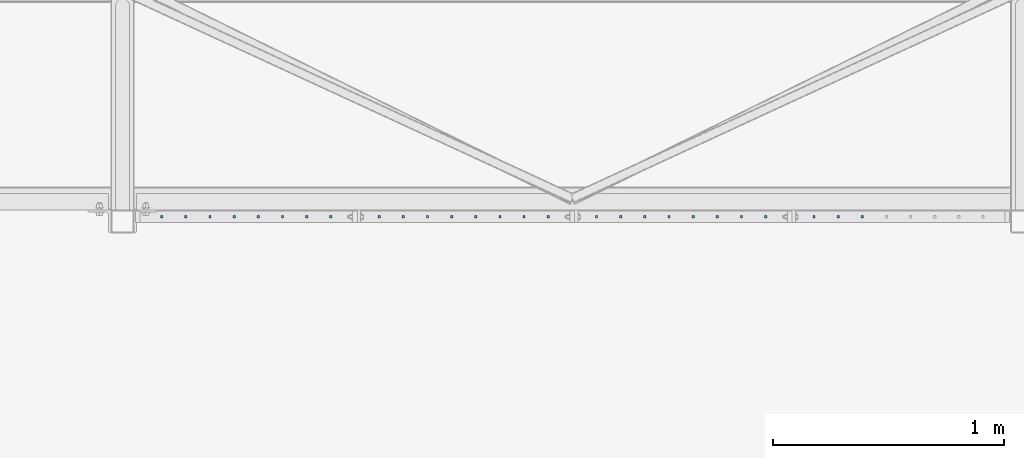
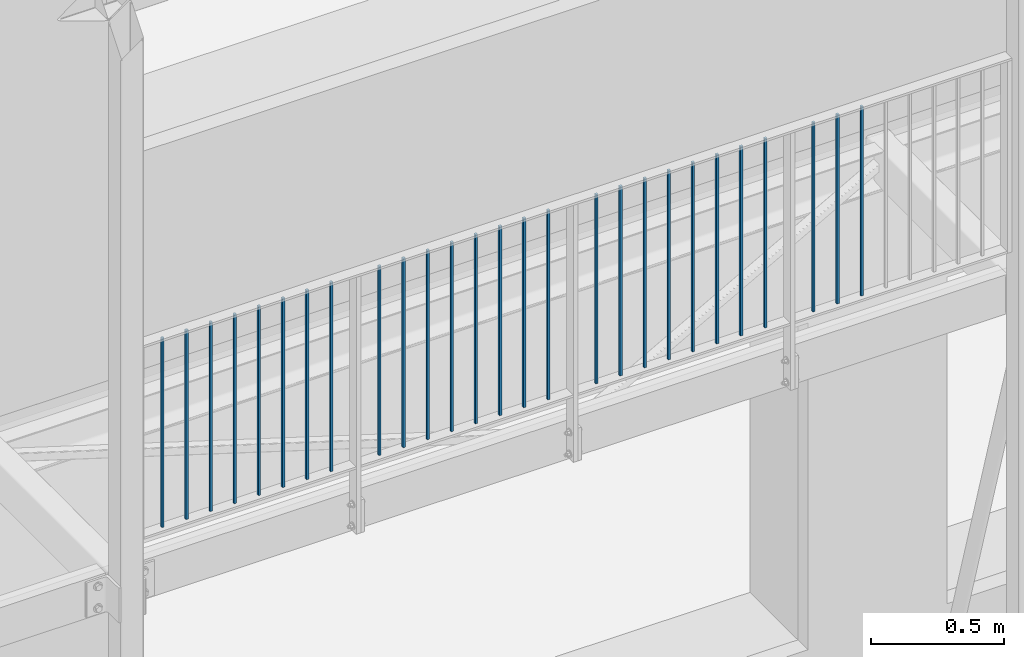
# One storey, part 35 of 78: 27 beams, 1 element without a shape of its own.
"""IFC2X3 building model written with IfcOpenShell, lengths in millimetres."""

from ifc_helpers import new_model, si_unit, frame, origin_with_axes, origin_2d_with_axis, place, context, subcontext, project, spatial, rectangle, extrude, clip, halfspace, material, type_object, element, aggregate, save


model = new_model("IFC2X3")

# Units and contexts
model_context = context("Model", 3, precision=1e-05, world=origin_with_axes())
body_context = subcontext(model_context, "Body", "Model", "MODEL_VIEW")
ifc_project = project(units=[si_unit("LENGTHUNIT", "METRE", prefix="MILLI"), si_unit("AREAUNIT", "SQUARE_METRE"), si_unit("VOLUMEUNIT", "CUBIC_METRE"), si_unit("MASSUNIT", "GRAM", prefix="KILO"), si_unit("TIMEUNIT", "SECOND"), si_unit("PLANEANGLEUNIT", "RADIAN"), si_unit("SOLIDANGLEUNIT", "STERADIAN"), si_unit("THERMODYNAMICTEMPERATUREUNIT", "DEGREE_CELSIUS"), si_unit("LUMINOUSINTENSITYUNIT", "LUMEN")], contexts=[model_context])

# Site, building, storey
site_placement = place(None, origin_with_axes())
site = spatial("IfcSite", under=ifc_project, at=site_placement, Name="Site", CompositionType="ELEMENT")
building_placement = place(site_placement, origin_with_axes())
building = spatial("IfcBuilding", under=site, at=building_placement, Name="Undefined", CompositionType="ELEMENT")
storey_placement = place(building_placement, origin_with_axes())
storey = spatial("IfcBuildingStorey", under=building, at=storey_placement, Name="Undefined", CompositionType="ELEMENT", Elevation=0.0)

# Assembly, beams
assembly_placement = place(storey_placement, origin_with_axes())
assembly = element("IfcElementAssembly", 1, at=assembly_placement, inside=storey, Name="MAIN_COURANTE", AssemblyPlace="NOTDEFINED", PredefinedType="RIGID_FRAME")
ifc_material = material(Name="STEEL/S235JR")
beam_type = type_object("IfcBeamType", Name="PL10*10", PredefinedType="NOTDEFINED")
beam_1_placement = place(assembly_placement, frame((-19478.3333333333, -8643.0, 160995.04), z_axis=(0.0, 1.0, 0.0), x_axis=(0.0, 0.0, -1.0)))
beam_1 = element("IfcBeam", 2, at=beam_1_placement, type_object=beam_type, material=ifc_material, Name="LISSE", ObjectType="PL10*10", context=body_context, shape_type="Clipping", body=[
    clip(clip(extrude(rectangle(XDim=10.0, YDim=10.0, at=origin_2d_with_axis()), frame((880.0, 0.0, 0.0), z_axis=(-1.0, 0.0, 0.0), x_axis=(0.0, -1.0, 0.0)), (0.0, 0.0, 1.0), 880.0), halfspace(frame((875.0, 0.0, 1005.0), z_axis=(1.0, 0.0, 0.0), x_axis=(0.0, 1.0, 0.0)), False)), halfspace(frame((5.0, 0.0, 1005.0), z_axis=(-1.0, 0.0, 0.0), x_axis=(0.0, -1.0, 0.0)), False)),
])
beam_2_placement = place(assembly_placement, frame((-19583.0555555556, -8643.0, 160995.04), z_axis=(0.0, 1.0, 0.0), x_axis=(0.0, 0.0, -1.0)))
beam_2 = element("IfcBeam", 3, at=beam_2_placement, type_object=beam_type, material=ifc_material, Name="LISSE", ObjectType="PL10*10", context=body_context, shape_type="Clipping", body=[
    clip(clip(extrude(rectangle(XDim=10.0, YDim=10.0, at=origin_2d_with_axis()), frame((880.0, 0.0, 0.0), z_axis=(-1.0, 0.0, 0.0), x_axis=(0.0, -1.0, 0.0)), (0.0, 0.0, 1.0), 880.0), halfspace(frame((875.0, 0.0, 1005.0), z_axis=(1.0, 0.0, 0.0), x_axis=(0.0, 1.0, 0.0)), False)), halfspace(frame((5.0, 0.0, 1005.0), z_axis=(-1.0, 0.0, 0.0), x_axis=(0.0, -1.0, 0.0)), False)),
])
beam_3_placement = place(assembly_placement, frame((-19897.2222222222, -8643.0, 160995.04), z_axis=(0.0, 1.0, 0.0), x_axis=(0.0, 0.0, -1.0)))
beam_3 = element("IfcBeam", 4, at=beam_3_placement, type_object=beam_type, material=ifc_material, Name="LISSE", ObjectType="PL10*10", context=body_context, shape_type="Clipping", body=[
    clip(clip(extrude(rectangle(XDim=10.0, YDim=10.0, at=origin_2d_with_axis()), frame((880.0, 0.0, 0.0), z_axis=(-1.0, 0.0, 0.0), x_axis=(0.0, -1.0, 0.0)), (0.0, 0.0, 1.0), 880.0), halfspace(frame((875.0, 0.0, 1005.0), z_axis=(1.0, 0.0, 0.0), x_axis=(0.0, 1.0, 0.0)), False)), halfspace(frame((5.0, 0.0, 1005.0), z_axis=(-1.0, 0.0, 0.0), x_axis=(0.0, -1.0, 0.0)), False)),
])
beam_4_placement = place(assembly_placement, frame((-20001.9444444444, -8643.0, 160995.04), z_axis=(0.0, 1.0, 0.0), x_axis=(0.0, 0.0, -1.0)))
beam_4 = element("IfcBeam", 5, at=beam_4_placement, type_object=beam_type, material=ifc_material, Name="LISSE", ObjectType="PL10*10", context=body_context, shape_type="Clipping", body=[
    clip(clip(extrude(rectangle(XDim=10.0, YDim=10.0, at=origin_2d_with_axis()), frame((880.0, 0.0, 0.0), z_axis=(-1.0, 0.0, 0.0), x_axis=(0.0, -1.0, 0.0)), (0.0, 0.0, 1.0), 880.0), halfspace(frame((875.0, 0.0, 1005.0), z_axis=(1.0, 0.0, 0.0), x_axis=(0.0, 1.0, 0.0)), False)), halfspace(frame((5.0, 0.0, 1005.0), z_axis=(-1.0, 0.0, 0.0), x_axis=(0.0, -1.0, 0.0)), False)),
])
beam_5_placement = place(assembly_placement, frame((-20106.6666666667, -8643.0, 160995.04), z_axis=(0.0, 1.0, 0.0), x_axis=(0.0, 0.0, -1.0)))
beam_5 = element("IfcBeam", 6, at=beam_5_placement, type_object=beam_type, material=ifc_material, Name="LISSE", ObjectType="PL10*10", context=body_context, shape_type="Clipping", body=[
    clip(clip(extrude(rectangle(XDim=10.0, YDim=10.0, at=origin_2d_with_axis()), frame((880.0, 0.0, 0.0), z_axis=(-1.0, 0.0, 0.0), x_axis=(0.0, -1.0, 0.0)), (0.0, 0.0, 1.0), 880.0), halfspace(frame((875.0, 0.0, 1005.0), z_axis=(1.0, 0.0, 0.0), x_axis=(0.0, 1.0, 0.0)), False)), halfspace(frame((5.0, 0.0, 1005.0), z_axis=(-1.0, 0.0, 0.0), x_axis=(0.0, -1.0, 0.0)), False)),
])
beam_6_placement = place(assembly_placement, frame((-20211.3888888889, -8643.0, 160995.04), z_axis=(0.0, 1.0, 0.0), x_axis=(0.0, 0.0, -1.0)))
beam_6 = element("IfcBeam", 7, at=beam_6_placement, type_object=beam_type, material=ifc_material, Name="LISSE", ObjectType="PL10*10", context=body_context, shape_type="Clipping", body=[
    clip(clip(extrude(rectangle(XDim=10.0, YDim=10.0, at=origin_2d_with_axis()), frame((880.0, 0.0, 0.0), z_axis=(-1.0, 0.0, 0.0), x_axis=(0.0, -1.0, 0.0)), (0.0, 0.0, 1.0), 880.0), halfspace(frame((875.0, 0.0, 1005.0), z_axis=(1.0, 0.0, 0.0), x_axis=(0.0, 1.0, 0.0)), False)), halfspace(frame((5.0, 0.0, 1005.0), z_axis=(-1.0, 0.0, 0.0), x_axis=(0.0, -1.0, 0.0)), False)),
])
beam_7_placement = place(assembly_placement, frame((-20316.1111111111, -8643.0, 160995.04), z_axis=(0.0, 1.0, 0.0), x_axis=(0.0, 0.0, -1.0)))
beam_7 = element("IfcBeam", 8, at=beam_7_placement, type_object=beam_type, material=ifc_material, Name="LISSE", ObjectType="PL10*10", context=body_context, shape_type="Clipping", body=[
    clip(clip(extrude(rectangle(XDim=10.0, YDim=10.0, at=origin_2d_with_axis()), frame((880.0, 0.0, 0.0), z_axis=(-1.0, 0.0, 0.0), x_axis=(0.0, -1.0, 0.0)), (0.0, 0.0, 1.0), 880.0), halfspace(frame((875.0, 0.0, 1005.0), z_axis=(1.0, 0.0, 0.0), x_axis=(0.0, 1.0, 0.0)), False)), halfspace(frame((5.0, 0.0, 1005.0), z_axis=(-1.0, 0.0, 0.0), x_axis=(0.0, -1.0, 0.0)), False)),
])
beam_8_placement = place(assembly_placement, frame((-20420.8333333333, -8643.0, 160995.04), z_axis=(0.0, 1.0, 0.0), x_axis=(0.0, 0.0, -1.0)))
beam_8 = element("IfcBeam", 9, at=beam_8_placement, type_object=beam_type, material=ifc_material, Name="LISSE", ObjectType="PL10*10", context=body_context, shape_type="Clipping", body=[
    clip(clip(extrude(rectangle(XDim=10.0, YDim=10.0, at=origin_2d_with_axis()), frame((880.0, 0.0, 0.0), z_axis=(-1.0, 0.0, 0.0), x_axis=(0.0, -1.0, 0.0)), (0.0, 0.0, 1.0), 880.0), halfspace(frame((875.0, 0.0, 1005.0), z_axis=(1.0, 0.0, 0.0), x_axis=(0.0, 1.0, 0.0)), False)), halfspace(frame((5.0, 0.0, 1005.0), z_axis=(-1.0, 0.0, 0.0), x_axis=(0.0, -1.0, 0.0)), False)),
])
beam_9_placement = place(assembly_placement, frame((-20525.5555555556, -8643.0, 160995.04), z_axis=(0.0, 1.0, 0.0), x_axis=(0.0, 0.0, -1.0)))
beam_9 = element("IfcBeam", 10, at=beam_9_placement, type_object=beam_type, material=ifc_material, Name="LISSE", ObjectType="PL10*10", context=body_context, shape_type="Clipping", body=[
    clip(clip(extrude(rectangle(XDim=10.0, YDim=10.0, at=origin_2d_with_axis()), frame((880.0, 0.0, 0.0), z_axis=(-1.0, 0.0, 0.0), x_axis=(0.0, -1.0, 0.0)), (0.0, 0.0, 1.0), 880.0), halfspace(frame((875.0, 0.0, 1005.0), z_axis=(1.0, 0.0, 0.0), x_axis=(0.0, 1.0, 0.0)), False)), halfspace(frame((5.0, 0.0, 1005.0), z_axis=(-1.0, 0.0, 0.0), x_axis=(0.0, -1.0, 0.0)), False)),
])
beam_10_placement = place(assembly_placement, frame((-20630.2777777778, -8643.0, 160995.04), z_axis=(0.0, 1.0, 0.0), x_axis=(0.0, 0.0, -1.0)))
beam_10 = element("IfcBeam", 11, at=beam_10_placement, type_object=beam_type, material=ifc_material, Name="LISSE", ObjectType="PL10*10", context=body_context, shape_type="Clipping", body=[
    clip(clip(extrude(rectangle(XDim=10.0, YDim=10.0, at=origin_2d_with_axis()), frame((880.0, 0.0, 0.0), z_axis=(-1.0, 0.0, 0.0), x_axis=(0.0, -1.0, 0.0)), (0.0, 0.0, 1.0), 880.0), halfspace(frame((875.0, 0.0, 1005.0), z_axis=(1.0, 0.0, 0.0), x_axis=(0.0, 1.0, 0.0)), False)), halfspace(frame((5.0, 0.0, 1005.0), z_axis=(-1.0, 0.0, 0.0), x_axis=(0.0, -1.0, 0.0)), False)),
])
beam_11_placement = place(assembly_placement, frame((-20839.7222222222, -8643.0, 160995.04), z_axis=(0.0, 1.0, 0.0), x_axis=(0.0, 0.0, -1.0)))
beam_11 = element("IfcBeam", 12, at=beam_11_placement, type_object=beam_type, material=ifc_material, Name="LISSE", ObjectType="PL10*10", context=body_context, shape_type="Clipping", body=[
    clip(clip(extrude(rectangle(XDim=10.0, YDim=10.0, at=origin_2d_with_axis()), frame((880.0, 0.0, 0.0), z_axis=(-1.0, 0.0, 0.0), x_axis=(0.0, -1.0, 0.0)), (0.0, 0.0, 1.0), 880.0), halfspace(frame((875.0, 0.0, 1005.0), z_axis=(1.0, 0.0, 0.0), x_axis=(0.0, 1.0, 0.0)), False)), halfspace(frame((5.0, 0.0, 1005.0), z_axis=(-1.0, 0.0, 0.0), x_axis=(0.0, -1.0, 0.0)), False)),
])
beam_12_placement = place(assembly_placement, frame((-20944.4444444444, -8643.0, 160995.04), z_axis=(0.0, 1.0, 0.0), x_axis=(0.0, 0.0, -1.0)))
beam_12 = element("IfcBeam", 13, at=beam_12_placement, type_object=beam_type, material=ifc_material, Name="LISSE", ObjectType="PL10*10", context=body_context, shape_type="Clipping", body=[
    clip(clip(extrude(rectangle(XDim=10.0, YDim=10.0, at=origin_2d_with_axis()), frame((880.0, 0.0, 0.0), z_axis=(-1.0, 0.0, 0.0), x_axis=(0.0, -1.0, 0.0)), (0.0, 0.0, 1.0), 880.0), halfspace(frame((875.0, 0.0, 1005.0), z_axis=(1.0, 0.0, 0.0), x_axis=(0.0, 1.0, 0.0)), False)), halfspace(frame((5.0, 0.0, 1005.0), z_axis=(-1.0, 0.0, 0.0), x_axis=(0.0, -1.0, 0.0)), False)),
])
beam_13_placement = place(assembly_placement, frame((-21049.1666666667, -8643.0, 160995.04), z_axis=(0.0, 1.0, 0.0), x_axis=(0.0, 0.0, -1.0)))
beam_13 = element("IfcBeam", 14, at=beam_13_placement, type_object=beam_type, material=ifc_material, Name="LISSE", ObjectType="PL10*10", context=body_context, shape_type="Clipping", body=[
    clip(clip(extrude(rectangle(XDim=10.0, YDim=10.0, at=origin_2d_with_axis()), frame((880.0, 0.0, 0.0), z_axis=(-1.0, 0.0, 0.0), x_axis=(0.0, -1.0, 0.0)), (0.0, 0.0, 1.0), 880.0), halfspace(frame((875.0, 0.0, 1005.0), z_axis=(1.0, 0.0, 0.0), x_axis=(0.0, 1.0, 0.0)), False)), halfspace(frame((5.0, 0.0, 1005.0), z_axis=(-1.0, 0.0, 0.0), x_axis=(0.0, -1.0, 0.0)), False)),
])
beam_14_placement = place(assembly_placement, frame((-21153.8888888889, -8643.0, 160995.04), z_axis=(0.0, 1.0, 0.0), x_axis=(0.0, 0.0, -1.0)))
beam_14 = element("IfcBeam", 15, at=beam_14_placement, type_object=beam_type, material=ifc_material, Name="LISSE", ObjectType="PL10*10", context=body_context, shape_type="Clipping", body=[
    clip(clip(extrude(rectangle(XDim=10.0, YDim=10.0, at=origin_2d_with_axis()), frame((880.0, 0.0, 0.0), z_axis=(-1.0, 0.0, 0.0), x_axis=(0.0, -1.0, 0.0)), (0.0, 0.0, 1.0), 880.0), halfspace(frame((875.0, 0.0, 1005.0), z_axis=(1.0, 0.0, 0.0), x_axis=(0.0, 1.0, 0.0)), False)), halfspace(frame((5.0, 0.0, 1005.0), z_axis=(-1.0, 0.0, 0.0), x_axis=(0.0, -1.0, 0.0)), False)),
])
beam_15_placement = place(assembly_placement, frame((-21258.6111111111, -8643.0, 160995.04), z_axis=(0.0, 1.0, 0.0), x_axis=(0.0, 0.0, -1.0)))
beam_15 = element("IfcBeam", 16, at=beam_15_placement, type_object=beam_type, material=ifc_material, Name="LISSE", ObjectType="PL10*10", context=body_context, shape_type="Clipping", body=[
    clip(clip(extrude(rectangle(XDim=10.0, YDim=10.0, at=origin_2d_with_axis()), frame((880.0, 0.0, 0.0), z_axis=(-1.0, 0.0, 0.0), x_axis=(0.0, -1.0, 0.0)), (0.0, 0.0, 1.0), 880.0), halfspace(frame((875.0, 0.0, 1005.0), z_axis=(1.0, 0.0, 0.0), x_axis=(0.0, 1.0, 0.0)), False)), halfspace(frame((5.0, 0.0, 1005.0), z_axis=(-1.0, 0.0, 0.0), x_axis=(0.0, -1.0, 0.0)), False)),
])
beam_16_placement = place(assembly_placement, frame((-21363.3333333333, -8643.0, 160995.04), z_axis=(0.0, 1.0, 0.0), x_axis=(0.0, 0.0, -1.0)))
beam_16 = element("IfcBeam", 17, at=beam_16_placement, type_object=beam_type, material=ifc_material, Name="LISSE", ObjectType="PL10*10", context=body_context, shape_type="Clipping", body=[
    clip(clip(extrude(rectangle(XDim=10.0, YDim=10.0, at=origin_2d_with_axis()), frame((880.0, 0.0, 0.0), z_axis=(-1.0, 0.0, 0.0), x_axis=(0.0, -1.0, 0.0)), (0.0, 0.0, 1.0), 880.0), halfspace(frame((875.0, 0.0, 1005.0), z_axis=(1.0, 0.0, 0.0), x_axis=(0.0, 1.0, 0.0)), False)), halfspace(frame((5.0, 0.0, 1005.0), z_axis=(-1.0, 0.0, 0.0), x_axis=(0.0, -1.0, 0.0)), False)),
])
beam_17_placement = place(assembly_placement, frame((-21468.0555555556, -8643.0, 160995.04), z_axis=(0.0, 1.0, 0.0), x_axis=(0.0, 0.0, -1.0)))
beam_17 = element("IfcBeam", 18, at=beam_17_placement, type_object=beam_type, material=ifc_material, Name="LISSE", ObjectType="PL10*10", context=body_context, shape_type="Clipping", body=[
    clip(clip(extrude(rectangle(XDim=10.0, YDim=10.0, at=origin_2d_with_axis()), frame((880.0, 0.0, 0.0), z_axis=(-1.0, 0.0, 0.0), x_axis=(0.0, -1.0, 0.0)), (0.0, 0.0, 1.0), 880.0), halfspace(frame((875.0, 0.0, 1005.0), z_axis=(1.0, 0.0, 0.0), x_axis=(0.0, 1.0, 0.0)), False)), halfspace(frame((5.0, 0.0, 1005.0), z_axis=(-1.0, 0.0, 0.0), x_axis=(0.0, -1.0, 0.0)), False)),
])
beam_18_placement = place(assembly_placement, frame((-21572.7777777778, -8643.0, 160995.04), z_axis=(0.0, 1.0, 0.0), x_axis=(0.0, 0.0, -1.0)))
beam_18 = element("IfcBeam", 19, at=beam_18_placement, type_object=beam_type, material=ifc_material, Name="LISSE", ObjectType="PL10*10", context=body_context, shape_type="Clipping", body=[
    clip(clip(extrude(rectangle(XDim=10.0, YDim=10.0, at=origin_2d_with_axis()), frame((880.0, 0.0, 0.0), z_axis=(-1.0, 0.0, 0.0), x_axis=(0.0, -1.0, 0.0)), (0.0, 0.0, 1.0), 880.0), halfspace(frame((875.0, 0.0, 1005.0), z_axis=(1.0, 0.0, 0.0), x_axis=(0.0, 1.0, 0.0)), False)), halfspace(frame((5.0, 0.0, 1005.0), z_axis=(-1.0, 0.0, 0.0), x_axis=(0.0, -1.0, 0.0)), False)),
])
beam_19_placement = place(assembly_placement, frame((-21782.2222222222, -8643.0, 160995.04), z_axis=(0.0, 1.0, 0.0), x_axis=(0.0, 0.0, -1.0)))
beam_19 = element("IfcBeam", 20, at=beam_19_placement, type_object=beam_type, material=ifc_material, Name="LISSE", ObjectType="PL10*10", context=body_context, shape_type="Clipping", body=[
    clip(clip(extrude(rectangle(XDim=10.0, YDim=10.0, at=origin_2d_with_axis()), frame((880.0, 0.0, 0.0), z_axis=(-1.0, 0.0, 0.0), x_axis=(0.0, -1.0, 0.0)), (0.0, 0.0, 1.0), 880.0), halfspace(frame((875.0, 0.0, 1005.0), z_axis=(1.0, 0.0, 0.0), x_axis=(0.0, 1.0, 0.0)), False)), halfspace(frame((5.0, 0.0, 1005.0), z_axis=(-1.0, 0.0, 0.0), x_axis=(0.0, -1.0, 0.0)), False)),
])
beam_20_placement = place(assembly_placement, frame((-19687.7777777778, -8643.0, 160995.04), z_axis=(0.0, 1.0, 0.0), x_axis=(0.0, 0.0, -1.0)))
beam_20 = element("IfcBeam", 21, at=beam_20_placement, type_object=beam_type, material=ifc_material, Name="LISSE", ObjectType="PL10*10", context=body_context, shape_type="Clipping", body=[
    clip(clip(extrude(rectangle(XDim=10.0, YDim=10.0, at=origin_2d_with_axis()), frame((880.0, 0.0, 0.0), z_axis=(-1.0, 0.0, 0.0), x_axis=(0.0, -1.0, 0.0)), (0.0, 0.0, 1.0), 880.0), halfspace(frame((875.0, 0.0, 1005.0), z_axis=(1.0, 0.0, 0.0), x_axis=(0.0, 1.0, 0.0)), False)), halfspace(frame((5.0, 0.0, 1005.0), z_axis=(-1.0, 0.0, 0.0), x_axis=(0.0, -1.0, 0.0)), False)),
])
beam_21_placement = place(assembly_placement, frame((-21886.9444444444, -8643.0, 160995.04), z_axis=(0.0, 1.0, 0.0), x_axis=(0.0, 0.0, -1.0)))
beam_21 = element("IfcBeam", 22, at=beam_21_placement, type_object=beam_type, material=ifc_material, Name="LISSE", ObjectType="PL10*10", context=body_context, shape_type="Clipping", body=[
    clip(clip(extrude(rectangle(XDim=10.0, YDim=10.0, at=origin_2d_with_axis()), frame((880.0, 0.0, 0.0), z_axis=(-1.0, 0.0, 0.0), x_axis=(0.0, -1.0, 0.0)), (0.0, 0.0, 1.0), 880.0), halfspace(frame((875.0, 0.0, 1005.0), z_axis=(1.0, 0.0, 0.0), x_axis=(0.0, 1.0, 0.0)), False)), halfspace(frame((5.0, 0.0, 1005.0), z_axis=(-1.0, 0.0, 0.0), x_axis=(0.0, -1.0, 0.0)), False)),
])
beam_22_placement = place(assembly_placement, frame((-21991.6666666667, -8643.0, 160995.04), z_axis=(0.0, 1.0, 0.0), x_axis=(0.0, 0.0, -1.0)))
beam_22 = element("IfcBeam", 23, at=beam_22_placement, type_object=beam_type, material=ifc_material, Name="LISSE", ObjectType="PL10*10", context=body_context, shape_type="Clipping", body=[
    clip(clip(extrude(rectangle(XDim=10.0, YDim=10.0, at=origin_2d_with_axis()), frame((880.0, 0.0, 0.0), z_axis=(-1.0, 0.0, 0.0), x_axis=(0.0, -1.0, 0.0)), (0.0, 0.0, 1.0), 880.0), halfspace(frame((875.0, 0.0, 1005.0), z_axis=(1.0, 0.0, 0.0), x_axis=(0.0, 1.0, 0.0)), False)), halfspace(frame((5.0, 0.0, 1005.0), z_axis=(-1.0, 0.0, 0.0), x_axis=(0.0, -1.0, 0.0)), False)),
])
beam_23_placement = place(assembly_placement, frame((-22096.3888888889, -8643.0, 160995.04), z_axis=(0.0, 1.0, 0.0), x_axis=(0.0, 0.0, -1.0)))
beam_23 = element("IfcBeam", 24, at=beam_23_placement, type_object=beam_type, material=ifc_material, Name="LISSE", ObjectType="PL10*10", context=body_context, shape_type="Clipping", body=[
    clip(clip(extrude(rectangle(XDim=10.0, YDim=10.0, at=origin_2d_with_axis()), frame((880.0, 0.0, 0.0), z_axis=(-1.0, 0.0, 0.0), x_axis=(0.0, -1.0, 0.0)), (0.0, 0.0, 1.0), 880.0), halfspace(frame((875.0, 0.0, 1005.0), z_axis=(1.0, 0.0, 0.0), x_axis=(0.0, 1.0, 0.0)), False)), halfspace(frame((5.0, 0.0, 1005.0), z_axis=(-1.0, 0.0, 0.0), x_axis=(0.0, -1.0, 0.0)), False)),
])
beam_24_placement = place(assembly_placement, frame((-22201.1111111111, -8643.0, 160995.04), z_axis=(0.0, 1.0, 0.0), x_axis=(0.0, 0.0, -1.0)))
beam_24 = element("IfcBeam", 25, at=beam_24_placement, type_object=beam_type, material=ifc_material, Name="LISSE", ObjectType="PL10*10", context=body_context, shape_type="Clipping", body=[
    clip(clip(extrude(rectangle(XDim=10.0, YDim=10.0, at=origin_2d_with_axis()), frame((880.0, 0.0, 0.0), z_axis=(-1.0, 0.0, 0.0), x_axis=(0.0, -1.0, 0.0)), (0.0, 0.0, 1.0), 880.0), halfspace(frame((875.0, 0.0, 1005.0), z_axis=(1.0, 0.0, 0.0), x_axis=(0.0, 1.0, 0.0)), False)), halfspace(frame((5.0, 0.0, 1005.0), z_axis=(-1.0, 0.0, 0.0), x_axis=(0.0, -1.0, 0.0)), False)),
])
beam_25_placement = place(assembly_placement, frame((-22305.8333333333, -8643.0, 160995.04), z_axis=(0.0, 1.0, 0.0), x_axis=(0.0, 0.0, -1.0)))
beam_25 = element("IfcBeam", 26, at=beam_25_placement, type_object=beam_type, material=ifc_material, Name="LISSE", ObjectType="PL10*10", context=body_context, shape_type="Clipping", body=[
    clip(clip(extrude(rectangle(XDim=10.0, YDim=10.0, at=origin_2d_with_axis()), frame((880.0, 0.0, 0.0), z_axis=(-1.0, 0.0, 0.0), x_axis=(0.0, -1.0, 0.0)), (0.0, 0.0, 1.0), 880.0), halfspace(frame((875.0, 0.0, 1005.0), z_axis=(1.0, 0.0, 0.0), x_axis=(0.0, 1.0, 0.0)), False)), halfspace(frame((5.0, 0.0, 1005.0), z_axis=(-1.0, 0.0, 0.0), x_axis=(0.0, -1.0, 0.0)), False)),
])
beam_26_placement = place(assembly_placement, frame((-22410.5555555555, -8643.0, 160995.04), z_axis=(0.0, 1.0, 0.0), x_axis=(0.0, 0.0, -1.0)))
beam_26 = element("IfcBeam", 27, at=beam_26_placement, type_object=beam_type, material=ifc_material, Name="LISSE", ObjectType="PL10*10", context=body_context, shape_type="Clipping", body=[
    clip(clip(extrude(rectangle(XDim=10.0, YDim=10.0, at=origin_2d_with_axis()), frame((880.0, 0.0, 0.0), z_axis=(-1.0, 0.0, 0.0), x_axis=(0.0, -1.0, 0.0)), (0.0, 0.0, 1.0), 880.0), halfspace(frame((875.0, 0.0, 1005.0), z_axis=(1.0, 0.0, 0.0), x_axis=(0.0, 1.0, 0.0)), False)), halfspace(frame((5.0, 0.0, 1005.0), z_axis=(-1.0, 0.0, 0.0), x_axis=(0.0, -1.0, 0.0)), False)),
])
beam_27_placement = place(assembly_placement, frame((-22515.2777777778, -8643.0, 160995.04), z_axis=(0.0, 1.0, 0.0), x_axis=(0.0, 0.0, -1.0)))
beam_27 = element("IfcBeam", 28, at=beam_27_placement, type_object=beam_type, material=ifc_material, Name="LISSE", ObjectType="PL10*10", context=body_context, shape_type="Clipping", body=[
    clip(clip(extrude(rectangle(XDim=10.0, YDim=10.0, at=origin_2d_with_axis()), frame((880.0, 0.0, 0.0), z_axis=(-1.0, 0.0, 0.0), x_axis=(0.0, -1.0, 0.0)), (0.0, 0.0, 1.0), 880.0), halfspace(frame((875.0, 0.0, 1005.0), z_axis=(1.0, 0.0, 0.0), x_axis=(0.0, 1.0, 0.0)), False)), halfspace(frame((5.0, 0.0, 1005.0), z_axis=(-1.0, 0.0, 0.0), x_axis=(0.0, -1.0, 0.0)), False)),
])
aggregate(assembly, [beam_1, beam_2, beam_3, beam_4, beam_5, beam_6, beam_7, beam_8, beam_9, beam_10, beam_11, beam_12, beam_13, beam_14, beam_15, beam_16, beam_17, beam_18, beam_19, beam_20, beam_21, beam_22, beam_23, beam_24, beam_25, beam_26, beam_27])

save(model, "model.ifc")
